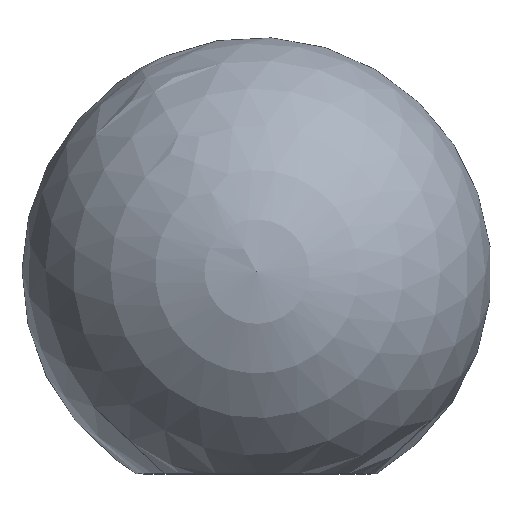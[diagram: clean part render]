
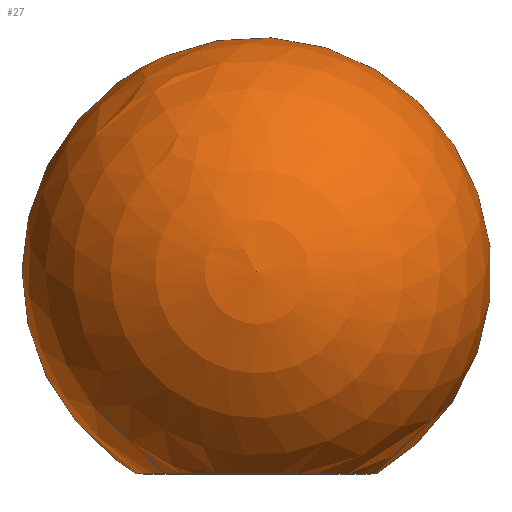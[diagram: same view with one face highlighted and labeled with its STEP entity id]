
A CAD part, top view. The second image highlights one B-rep face of the part: STEP entity #27.
In plain terms, the highlighted spherical face has radius 5 mm.
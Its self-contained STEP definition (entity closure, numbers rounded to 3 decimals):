
#16 = FACE_OUTER_BOUND ( 'NONE', #131, .T. ) ;
#17 = VERTEX_POINT ( 'NONE', #37 ) ;
#27 = ADVANCED_FACE ( 'NONE', ( #16 ), #35, .T. ) ;
#33 = CARTESIAN_POINT ( 'NONE',  ( 0., 4.3, 0. ) ) ;
#35 = SPHERICAL_SURFACE ( 'NONE', #81, 5. ) ;
#37 = CARTESIAN_POINT ( 'NONE',  ( 0., 0., -2.551 ) ) ;
#48 = DIRECTION ( 'NONE',  ( 0., 0., 1. ) ) ;
#54 = DIRECTION ( 'NONE',  ( 0., 0., -1. ) ) ;
#58 = CIRCLE ( 'NONE', #129, 2.551 ) ;
#81 = AXIS2_PLACEMENT_3D ( 'NONE', #33, #48, #118 ) ;
#92 = DIRECTION ( 'NONE',  ( 0., -1., 0. ) ) ;
#118 = DIRECTION ( 'NONE',  ( 1., 0., 0. ) ) ;
#123 = EDGE_CURVE ( 'NONE', #17, #17, #58, .T. ) ;
#129 = AXIS2_PLACEMENT_3D ( 'NONE', #153, #92, #54 ) ;
#131 = EDGE_LOOP ( 'NONE', ( #141 ) ) ;
#141 = ORIENTED_EDGE ( 'NONE', *, *, #123, .F. ) ;
#153 = CARTESIAN_POINT ( 'NONE',  ( 0., 0., 0. ) ) ;
